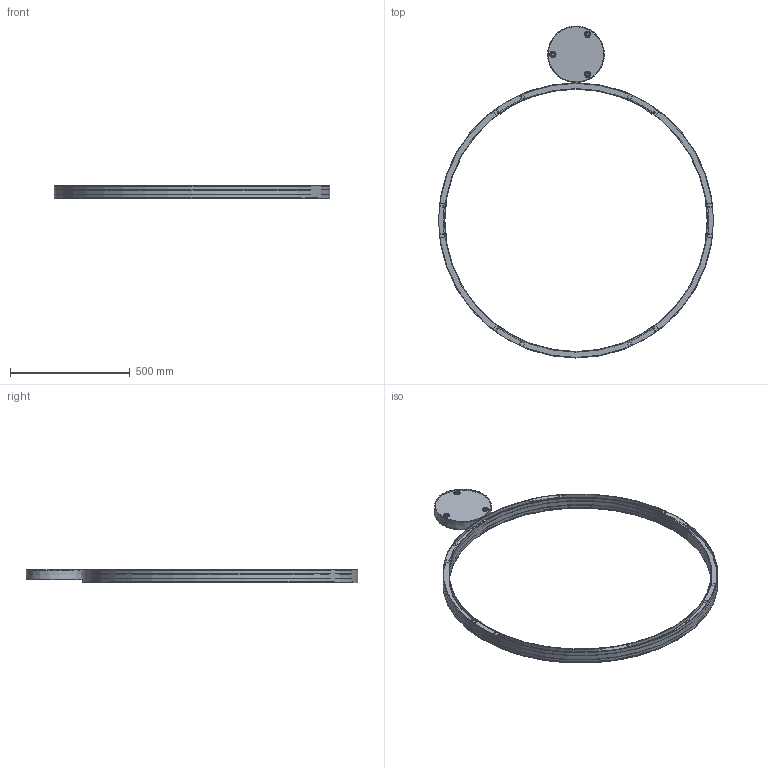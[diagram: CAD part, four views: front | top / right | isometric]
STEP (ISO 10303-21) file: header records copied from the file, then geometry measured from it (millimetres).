
FILE_DESCRIPTION(/* description */ (''),/* implementation_level */ '2;1');
FILE_NAME(/* name */ '561_Sharp_Plaf.stp',/* time_stamp */ '2019-02-18T10:47:29+01:00',/* author */ (''),/* organization */ (''),/* preprocessor_version */ 'ST-DEVELOPER v16',/* originating_system */ 'SIEMENS PLM Software NX 11.0',/* authorisation */ '');
FILE_SCHEMA (('AUTOMOTIVE_DESIGN { 1 0 10303 214 3 1 1 1 }'));
Length unit declared in the file: millimetre
Products named in the file (8): Smp_Cov_Rs; Smp_Fnd; Smp_Ceil; Smp_Cov_Sh_R561; Smp_Mod_Sh_R561; Smp_Bdy_R561; Smp_Ros; ASM_R561
Assembly tree (18 placements, depth 3):
  ASM_R561
    Smp_Bdy_R561
    Smp_Mod_Sh_R561  x4
    Smp_Cov_Sh_R561  x4
    Smp_Ceil  x6
    Smp_Ros
      Smp_Fnd
      Smp_Cov_Rs
Bounding box: 1149 x 1385.8 x 56 mm (x, y, z)
Volume: 1681706.1 mm3; surface area: 1565995.4 mm2
Topology: 17 solids, 50 shells, 2126 faces, 5131 edges, 3152 vertices
Faces by surface type: bspline 648, cylinder 413, plane 401, torus 384, cone 280
Full cylindrical faces by diameter (mm): 231 x1, 1095 x1, 1097.8 x2, 1100 x3, 1144 x3, 1146.2 x2, 1149 x1
Entity records: 19007 total; most frequent: CARTESIAN_POINT 6527, ORIENTED_EDGE 2642, DIRECTION 2402, EDGE_CURVE 1321, AXIS2_PLACEMENT_3D 1007, VERTEX_POINT 840, EDGE_LOOP 685, ADVANCED_FACE 587
